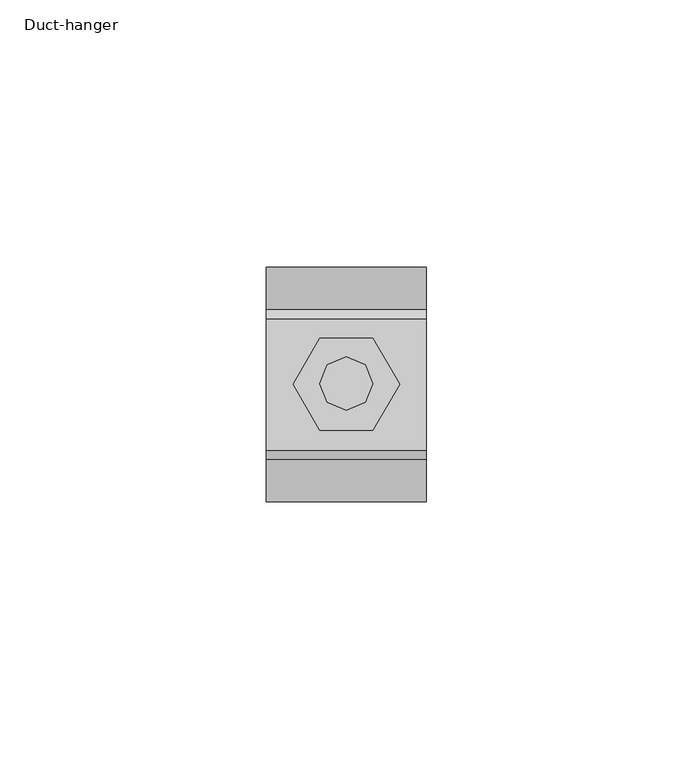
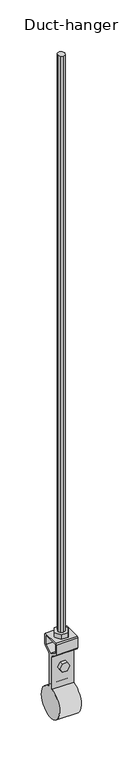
"""IFC4 building model written with IfcOpenShell, lengths in millimetres: proxy geometry, Duct-hanger : Φ44."""

from ifc_helpers import new_model, si_unit, point, frame, frame_2d, origin, place, context, project, spatial, polyline, circle_curve, trimmed, segment, composite_curve, outline, extrude, source, transform, mapped, element, save


def duct_hanger_fe628b02(model_context):
    return source(origin(), model_context, "Body", "SweptSolid", [
        extrude(outline(polyline([(3.5351563, 3.5351563), (5.0003052, 0.0), (3.5351563, -3.5351563), (0.0, -5.0), (-3.5354614, -3.5351563), (-5.0, 0.0), (-3.5354614, 3.5351563), (0.0, 5.0), (3.5351563, 3.5351563)])), frame((0.0, 0.0, -855.2252723), z_axis=(0.0, 0.0, 1.0), x_axis=(1.0, 0.0, 0.0)), (0.0, 0.0, 1.0), 855.2252723),
        extrude(outline(polyline([(5.0, 8.659668), (10.0, 0.0), (5.0, -8.659668), (-5.0, -8.659668), (-10.0, 0.0), (-5.0, 8.659668), (5.0, 8.659668)])), frame((0.0, 0.0, -855.2252723), z_axis=(0.0, 0.0, 1.0), x_axis=(1.0, 0.0, 0.0)), (0.0, 0.0, 1.0), 6.6101074),
        extrude(outline(polyline([(-892.2406021, -3.5931396), (-898.4640518, -7.1862793), (-904.6875015, -3.5931396), (-904.6875015, 3.5931396), (-898.4640518, 7.1862793), (-892.2406021, 3.5931396), (-892.2406021, -3.5931396)])), frame((0.0, -8.2446289, 0.0), z_axis=(0.0, 1.0, 0.0), x_axis=(0.0, 0.0, 1.0)), (0.0, 0.0, 1.0), 16.4892578),
        extrude(outline(composite_curve([segment(polyline([(14.0234375, -856.8939735), (14.0234375, -871.5436317), (12.8845215, -873.6099769), (4.6337891, -878.8178016), (3.494873, -880.8847572), (3.494873, -928.4640518)]), True, "CONTINUOUS"), segment(trimmed(circle_curve(frame_2d((0.0, -950.184684)), 22.0), [point((3.494873, -928.4640518))], [point((-3.494873, -928.4640518))], False, "CARTESIAN"), True, "CONTINUOUS"), segment(polyline([(-3.494873, -928.4640518), (-3.494873, -880.8847572), (-4.6337891, -878.8178016), (-12.8845215, -873.6099769), (-14.0234375, -871.5436317), (-14.0234375, -856.8939735), (-12.3547363, -855.2252723), (12.3547363, -855.2252723), (14.0234375, -856.8939735)]), True, "CONTINUOUS")], self_intersect=False), holes=[polyline([(0.0, -877.4916486), (10.7531738, -870.7050087), (10.7531738, -858.4787513), (-10.7531738, -858.4787513), (-10.7531738, -870.7050087), (0.0, -877.4916486)])]), frame((-15.0, 0.0, 0.0), z_axis=(1.0, 0.0, 0.0), x_axis=(0.0, 1.0, 0.0)), (0.0, 0.0, 1.0), 30.0),
    ])


if __name__ == "__main__":
    model = new_model("IFC4")
    model_context = context("Model", 3, world=origin())
    ifc_project = project(units=[si_unit("LENGTHUNIT", "METRE", prefix="MILLI")], contexts=[model_context])
    site = spatial("IfcSite", under=ifc_project)
    building = spatial("IfcBuilding", under=site)
    placement = place(None, origin())
    duct_hanger_shape = duct_hanger_fe628b02(model_context)
    element("IfcBuildingElementProxy", 1, Name="Duct-hanger : Φ44", ObjectType="Duct-hanger : Φ44", at=placement, inside=building, context=model_context, shape_type="MappedRepresentation", body=[
        mapped(duct_hanger_shape, transform((0.0, 0.0, 0.0), x_axis=(1.0, 0.0, 0.0), y_axis=(0.0, 1.0, 0.0), z_axis=(0.0, 0.0, 1.0))),
    ])
    save(model, "model.ifc")
